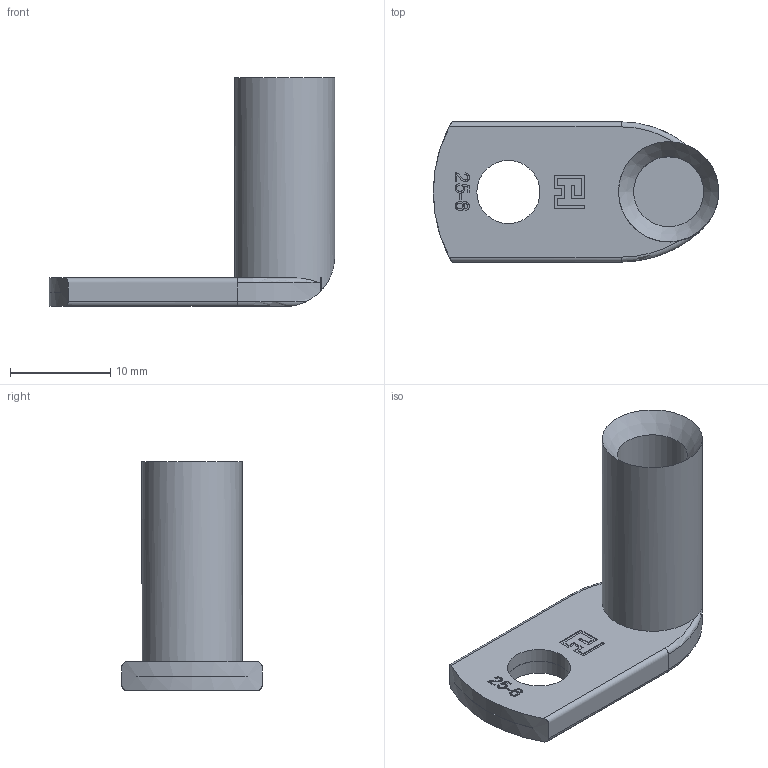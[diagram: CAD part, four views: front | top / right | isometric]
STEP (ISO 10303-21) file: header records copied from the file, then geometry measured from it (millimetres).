
FILE_DESCRIPTION(('FreeCAD Model'),'2;1');
FILE_NAME('Open CASCADE Shape Model','2022-02-03T15:31:00',( 'Frederic Herrmann'),('KEB Automation KG'), 'Open CASCADE STEP processor 7.5','FreeCAD','Unknown');
FILE_SCHEMA(('CONFIG_CONTROL_DESIGN','SHAPE_APPEARANCE_LAYER_MIM'));
Length unit declared in the file: millimetre
Products named in the file (1): 4R6 M6
Bounding box: 28.5 x 14 x 22.86 mm (x, y, z)
Volume: 1854.5 mm3; surface area: 2018.5 mm2
Topology: 1 solids, 1 shells, 135 faces, 377 edges, 251 vertices
Faces by surface type: extrusion 60, plane 57, cylinder 13, torus 4, cone 1
Full cylindrical faces by diameter (mm): 6.3 x2, 7 x1, 10 x1
Entity records: 10907 total; most frequent: CARTESIAN_POINT 4100, DIRECTION 924, ORIENTED_EDGE 754, PCURVE 754, DEFINITIONAL_REPRESENTATION 754, VECTOR 684, LINE 624, B_SPLINE_CURVE_WITH_KNOTS 510
